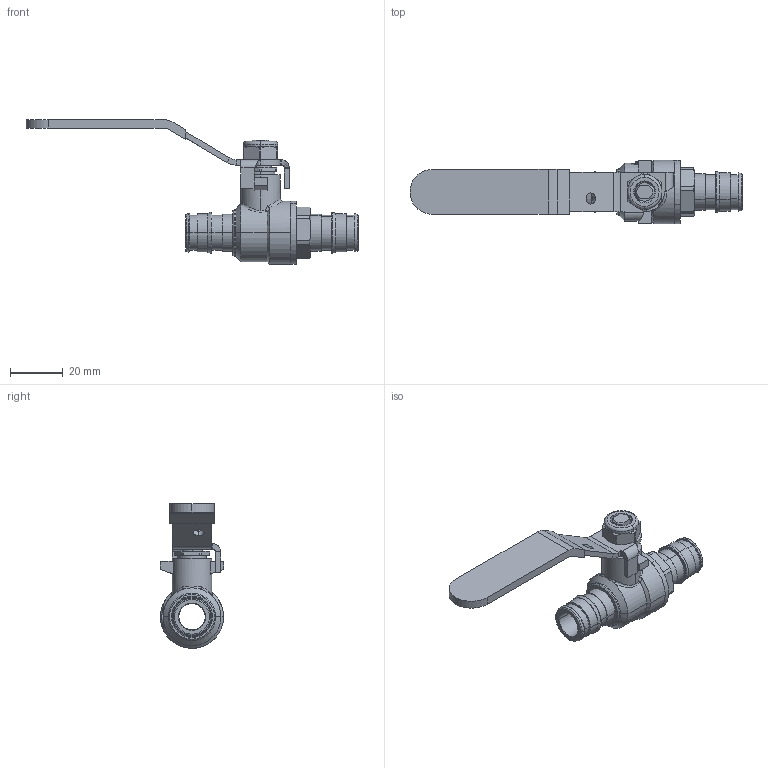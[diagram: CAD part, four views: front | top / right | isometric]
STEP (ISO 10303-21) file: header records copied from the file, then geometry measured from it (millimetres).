
FILE_DESCRIPTION(('Open CASCADE Model'),'2;1');
FILE_NAME('Open CASCADE Shape Model','2021-11-23T08:12:27',('Author'),( 'Open CASCADE'),'Open CASCADE STEP processor 7.3','Open CASCADE 7.3' ,'Unknown');
FILE_SCHEMA(('AUTOMOTIVE_DESIGN { 1 0 10303 214 1 1 1 1 }'));
Length unit declared in the file: millimetre
Products named in the file (12): Open CASCADE STEP translator 7.3 1; Open CASCADE STEP translator 7.3 1.1; Open CASCADE STEP translator 7.3 1.2; Open CASCADE STEP translator 7.3 1.3; Open CASCADE STEP translator 7.3 1.4; Open CASCADE STEP translator 7.3 1.5; Open CASCADE STEP translator 7.3 1.6; Open CASCADE STEP translator 7.3 1.7; Open CASCADE STEP translator 7.3 1.8; Open CASCADE STEP translator 7.3 1.9; Open CASCADE STEP translator 7.3 1.10; Open CASCADE STEP translator 7.3 1.11
Assembly tree (11 placements, depth 2):
  Open CASCADE STEP translator 7.3 1
    Open CASCADE STEP translator 7.3 1.1
    Open CASCADE STEP translator 7.3 1.2
    Open CASCADE STEP translator 7.3 1.3
    Open CASCADE STEP translator 7.3 1.4
    Open CASCADE STEP translator 7.3 1.5
    Open CASCADE STEP translator 7.3 1.6
    Open CASCADE STEP translator 7.3 1.7
    Open CASCADE STEP translator 7.3 1.8
    Open CASCADE STEP translator 7.3 1.9
    Open CASCADE STEP translator 7.3 1.10
    Open CASCADE STEP translator 7.3 1.11
Bounding box: 126.1 x 24 x 54.98 mm (x, y, z)
Volume: 18695.9 mm3; surface area: 18509.7 mm2
Topology: 11 solids, 11 shells, 588 faces, 1494 edges, 960 vertices
Faces by surface type: cylinder 187, plane 169, bspline 125, cone 75, torus 30, sphere 2
Entity records: 89094 total; most frequent: CARTESIAN_POINT 62370, DIRECTION 3972, ORIENTED_EDGE 2984, PCURVE 2984, DEFINITIONAL_REPRESENTATION 2984, LINE 2008, VECTOR 2008, B_SPLINE_CURVE_WITH_KNOTS 1598
